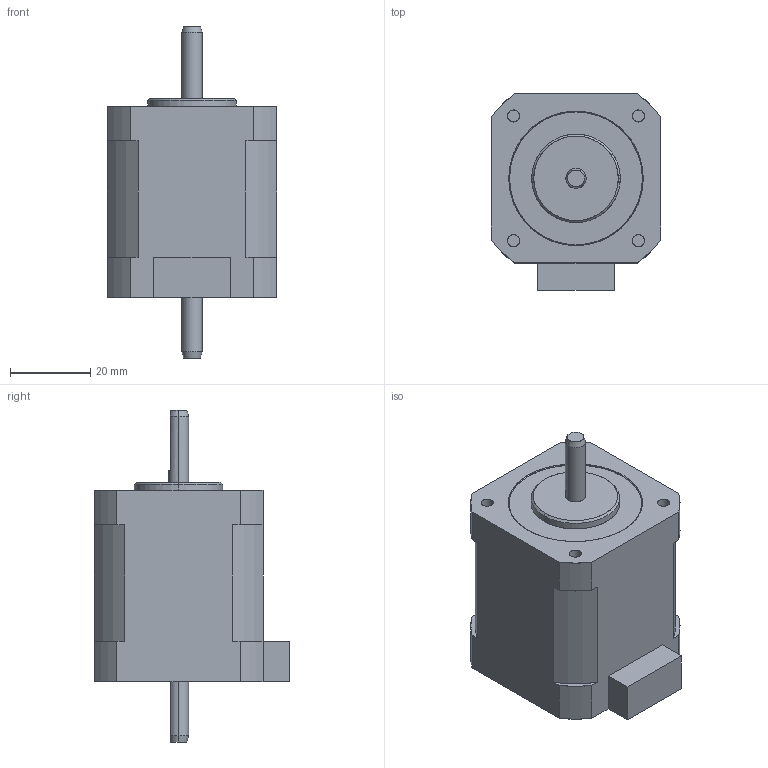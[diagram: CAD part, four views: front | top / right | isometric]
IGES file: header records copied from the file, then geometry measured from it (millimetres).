
Start section: SolidWorks IGES file using analytic representation for surfaces
Global section: file name: C:\Users\6870\Desktop\PMSA-U42D3D_3D.IGS; native system: SolidWorks 2014; preprocessor: SolidWorks 2014; author: 6870; date: 170131.133248; units: millimetre
Bounding box: 42 x 48.7 x 82.5 mm (x, y, z)
Surface area: 11922.7 mm2 (no closed solid volume)
Topology: 0 solids, 0 shells, 66 faces, 912 edges, 912 vertices
Faces by surface type: revolution 37, bspline 29
